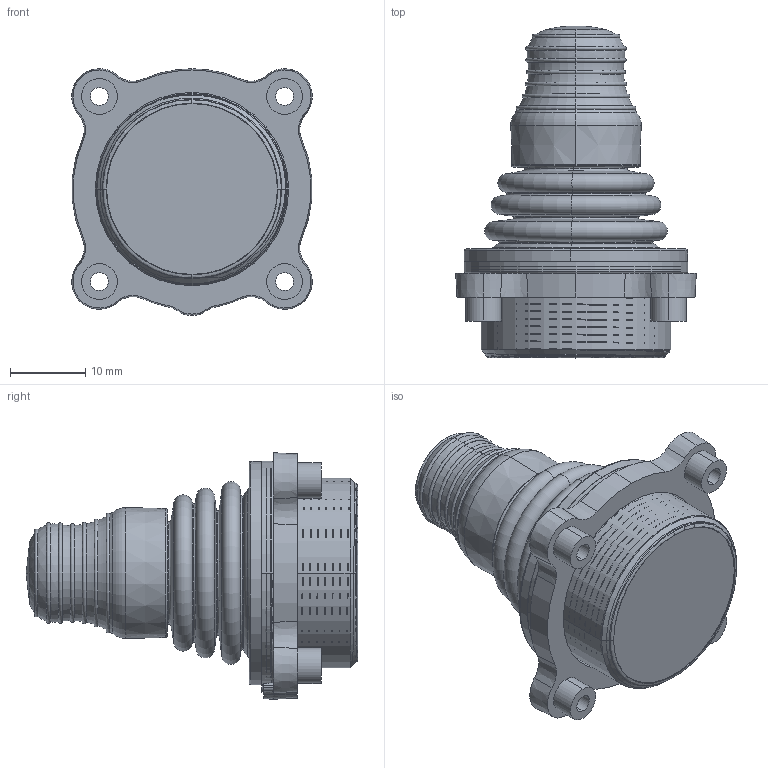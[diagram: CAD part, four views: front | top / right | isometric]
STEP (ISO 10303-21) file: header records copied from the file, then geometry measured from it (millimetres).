
FILE_DESCRIPTION(('FreeCAD Model'),'2;1');
FILE_NAME('Open CASCADE Shape Model','2023-12-19T11:17:25',(''),(''), 'Open CASCADE STEP processor 7.6','FreeCAD','Unknown');
FILE_SCHEMA(('AUTOMOTIVE_DESIGN { 1 0 10303 214 1 1 1 1 }'));
Length unit declared in the file: millimetre
Products named in the file (4): Unnamed; Fusion010; Handle D001; Fusion009
Assembly tree (3 placements, depth 2):
  Unnamed
    Fusion010
    Handle D001
    Fusion009
Bounding box: 32 x 44.15 x 32.8 mm (x, y, z)
Volume: 13757.9 mm3; surface area: 20570.4 mm2
Topology: 6 solids, 6 shells, 804 faces, 6023 edges, 19660 vertices
Faces by surface type: plane 260, cylinder 222, cone 144, torus 116, bspline 50, sphere 6, revolution 6
Entity records: 108164 total; most frequent: CARTESIAN_POINT 48531, DIRECTION 9293, ORIENTED_EDGE 4274, GEOMETRIC_CURVE_SET 3888, TRIMMED_CURVE 3886, AXIS2_PLACEMENT_3D 3328, LINE 2631, VECTOR 2631
